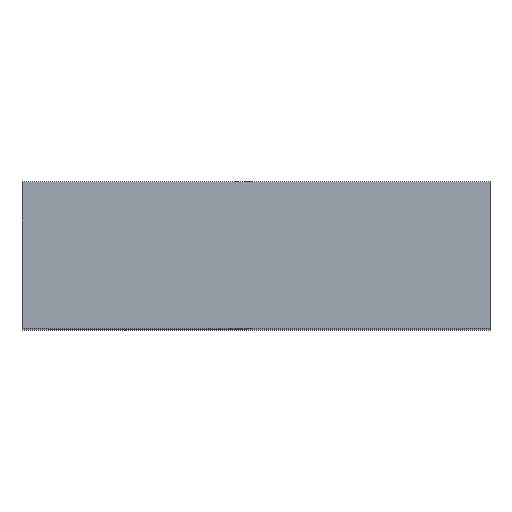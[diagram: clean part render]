
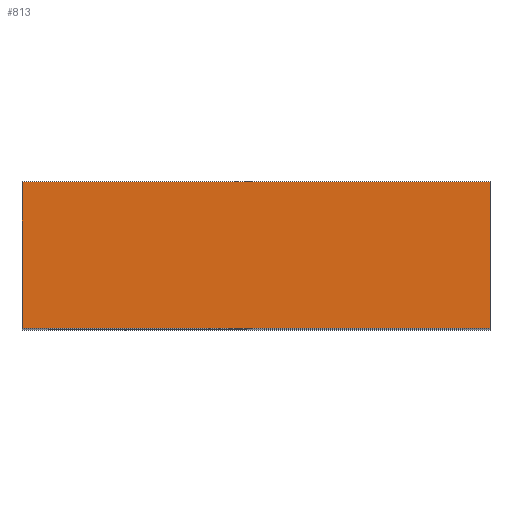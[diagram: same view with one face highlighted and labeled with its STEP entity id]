
A CAD part, top view. The second image highlights one B-rep face of the part: STEP entity #813.
In plain terms, the highlighted planar face has unit normal (0, 0, 1).
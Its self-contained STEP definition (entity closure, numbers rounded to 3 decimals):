
#34 = ORIENTED_EDGE ( 'NONE', *, *, #468, .T. ) ;
#35 = ORIENTED_EDGE ( 'NONE', *, *, #475, .F. ) ;
#36 = ORIENTED_EDGE ( 'NONE', *, *, #461, .F. ) ;
#37 = ORIENTED_EDGE ( 'NONE', *, *, #478, .T. ) ;
#81 = EDGE_LOOP ( 'NONE', ( #34, #35, #36, #37 ) ) ;
#108 = VERTEX_POINT ( 'NONE', #413 ) ;
#172 = DIRECTION ( 'NONE',  ( -1., 0., 0. ) ) ;
#173 = DIRECTION ( 'NONE',  ( 0., 0., -1. ) ) ;
#179 = CARTESIAN_POINT ( 'NONE',  ( -104., 65., 239.5 ) ) ;
#182 = PLANE ( 'NONE',  #547 ) ;
#338 = DIRECTION ( 'NONE',  ( 0., -1., 0. ) ) ;
#339 = CARTESIAN_POINT ( 'NONE',  ( -104., 65., 239.5 ) ) ;
#344 = DIRECTION ( 'NONE',  ( 0., -1., 0. ) ) ;
#347 = CARTESIAN_POINT ( 'NONE',  ( 104., 65., 239.5 ) ) ;
#358 = DIRECTION ( 'NONE',  ( 1., 0., 0. ) ) ;
#361 = CARTESIAN_POINT ( 'NONE',  ( -104., 0., 239.5 ) ) ;
#369 = DIRECTION ( 'NONE',  ( 1., 0., 0. ) ) ;
#370 = CARTESIAN_POINT ( 'NONE',  ( -104., 65., 239.5 ) ) ;
#378 = CARTESIAN_POINT ( 'NONE',  ( 104., 65., 239.5 ) ) ;
#393 = CARTESIAN_POINT ( 'NONE',  ( -104., 65., 239.5 ) ) ;
#394 = CARTESIAN_POINT ( 'NONE',  ( -104., 0., 239.5 ) ) ;
#413 = CARTESIAN_POINT ( 'NONE',  ( 104., 0., 239.5 ) ) ;
#435 = VERTEX_POINT ( 'NONE', #394 ) ;
#436 = VERTEX_POINT ( 'NONE', #393 ) ;
#451 = VERTEX_POINT ( 'NONE', #378 ) ;
#461 = EDGE_CURVE ( 'NONE', #436, #451, #621, .T. ) ;
#468 = EDGE_CURVE ( 'NONE', #435, #108, #622, .T. ) ;
#475 = EDGE_CURVE ( 'NONE', #451, #108, #639, .T. ) ;
#478 = EDGE_CURVE ( 'NONE', #436, #435, #650, .T. ) ;
#547 = AXIS2_PLACEMENT_3D ( 'NONE', #179, #173, #172 ) ;
#620 = VECTOR ( 'NONE', #369, 1000. ) ;
#621 = LINE ( 'NONE', #370, #620 ) ;
#622 = LINE ( 'NONE', #361, #630 ) ;
#630 = VECTOR ( 'NONE', #358, 1000. ) ;
#639 = LINE ( 'NONE', #347, #644 ) ;
#644 = VECTOR ( 'NONE', #344, 1000. ) ;
#650 = LINE ( 'NONE', #339, #651 ) ;
#651 = VECTOR ( 'NONE', #338, 1000. ) ;
#780 = FACE_OUTER_BOUND ( 'NONE', #81, .T. ) ;
#813 = ADVANCED_FACE ( 'NONE', ( #780 ), #182, .F. ) ;
